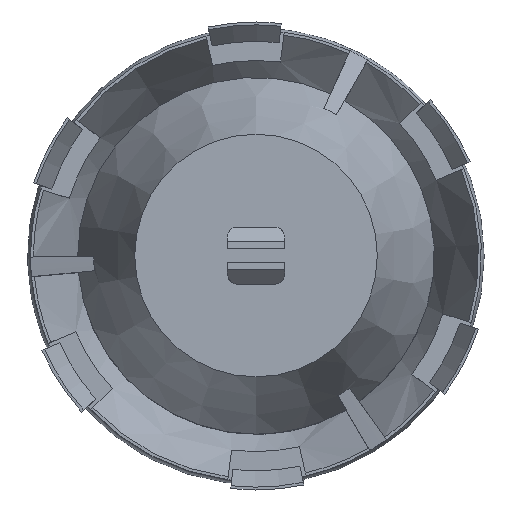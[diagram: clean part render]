
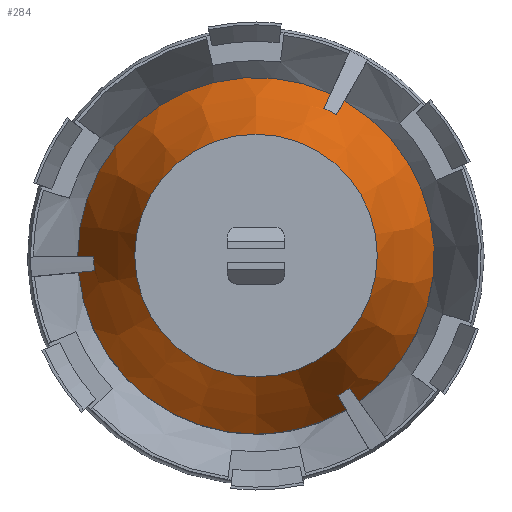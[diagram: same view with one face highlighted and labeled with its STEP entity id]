
A CAD part, top view. The second image highlights one B-rep face of the part: STEP entity #284.
In plain terms, the highlighted conical face has half-angle 21.801 degrees and reference radius 10.5 mm.
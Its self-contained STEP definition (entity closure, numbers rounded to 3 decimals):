
#75=CARTESIAN_POINT('',(-12.446,-1.158,15.0));
#76=VERTEX_POINT('',#75);
#92=CARTESIAN_POINT('',(6.309,-10.791,15.));
#93=VERTEX_POINT('',#92);
#100=CARTESIAN_POINT('',(0.,0.,15.));
#101=DIRECTION('',(0.0,0.0,-1.0));
#102=DIRECTION('',(0.0,-1.0,0.0));
#103=AXIS2_PLACEMENT_3D('',#100,#101,#102);
#104=CIRCLE('',#103,12.5);
#105=EDGE_CURVE('',#93,#76,#104,.T.);
#115=CARTESIAN_POINT('',(6.19,10.86,15.));
#116=VERTEX_POINT('',#115);
#125=CARTESIAN_POINT('',(7.226,-10.2,15.0));
#126=VERTEX_POINT('',#125);
#127=CARTESIAN_POINT('',(0.,0.,15.));
#128=DIRECTION('',(0.0,0.0,-1.0));
#129=DIRECTION('',(0.0,-1.0,0.0));
#130=AXIS2_PLACEMENT_3D('',#127,#128,#129);
#131=CIRCLE('',#130,12.5);
#132=EDGE_CURVE('',#116,#126,#131,.T.);
#159=CARTESIAN_POINT('',(5.22,11.358,15.0));
#160=VERTEX_POINT('',#159);
#176=CARTESIAN_POINT('',(-12.5,-0.069,15.));
#177=VERTEX_POINT('',#176);
#184=CARTESIAN_POINT('',(0.,0.,15.));
#185=DIRECTION('',(0.0,0.0,-1.0));
#186=DIRECTION('',(0.0,-1.0,0.0));
#187=AXIS2_PLACEMENT_3D('',#184,#185,#186);
#188=CIRCLE('',#187,12.5);
#189=EDGE_CURVE('',#177,#160,#188,.T.);
#194=CARTESIAN_POINT('',(0.,0.,20.0));
#195=DIRECTION('',(0.,0.,-1.0));
#196=DIRECTION('',(0.0,-1.0,0.0));
#197=AXIS2_PLACEMENT_3D('',#194,#195,#196);
#198=CONICAL_SURFACE('',#197,10.5,21.801);
#199=CARTESIAN_POINT('',(4.75,10.335,17.815));
#200=VERTEX_POINT('',#199);
#201=CARTESIAN_POINT('',(5.22,11.358,15.0));
#202=DIRECTION('',(-0.155,-0.337,0.928));
#203=VECTOR('',#202,3.031);
#204=LINE('',#201,#203);
#205=EDGE_CURVE('',#160,#200,#204,.T.);
#206=ORIENTED_EDGE('',*,*,#205,.F.);
#207=ORIENTED_EDGE('',*,*,#189,.F.);
#208=CARTESIAN_POINT('',(-11.374,-0.063,17.815));
#209=VERTEX_POINT('',#208);
#210=CARTESIAN_POINT('',(-11.374,-0.063,17.815));
#211=DIRECTION('',(-0.371,-0.002,-0.928));
#212=VECTOR('',#211,3.031);
#213=LINE('',#210,#212);
#214=EDGE_CURVE('',#209,#177,#213,.T.);
#215=ORIENTED_EDGE('',*,*,#214,.F.);
#216=CARTESIAN_POINT('',(-11.325,-1.054,17.815));
#217=VERTEX_POINT('',#216);
#218=CARTESIAN_POINT('',(0.,0.,17.815));
#219=DIRECTION('',(0.0,0.0,-1.0));
#220=DIRECTION('',(0.0,-1.0,0.0));
#221=AXIS2_PLACEMENT_3D('',#218,#219,#220);
#222=CIRCLE('',#221,11.374);
#223=EDGE_CURVE('',#217,#209,#222,.T.);
#224=ORIENTED_EDGE('',*,*,#223,.F.);
#225=CARTESIAN_POINT('',(-12.446,-1.158,15.0));
#226=DIRECTION('',(0.37,0.034,0.928));
#227=VECTOR('',#226,3.031);
#228=LINE('',#225,#227);
#229=EDGE_CURVE('',#76,#217,#228,.T.);
#230=ORIENTED_EDGE('',*,*,#229,.F.);
#231=ORIENTED_EDGE('',*,*,#105,.F.);
#232=CARTESIAN_POINT('',(5.741,-9.819,17.815));
#233=VERTEX_POINT('',#232);
#234=CARTESIAN_POINT('',(5.741,-9.819,17.815));
#235=DIRECTION('',(0.187,-0.321,-0.928));
#236=VECTOR('',#235,3.031);
#237=LINE('',#234,#236);
#238=EDGE_CURVE('',#233,#93,#237,.T.);
#239=ORIENTED_EDGE('',*,*,#238,.F.);
#240=CARTESIAN_POINT('',(6.575,-9.281,17.815));
#241=VERTEX_POINT('',#240);
#242=CARTESIAN_POINT('',(0.,0.,17.815));
#243=DIRECTION('',(0.0,0.0,-1.0));
#244=DIRECTION('',(0.0,-1.0,0.0));
#245=AXIS2_PLACEMENT_3D('',#242,#243,#244);
#246=CIRCLE('',#245,11.374);
#247=EDGE_CURVE('',#241,#233,#246,.T.);
#248=ORIENTED_EDGE('',*,*,#247,.F.);
#249=CARTESIAN_POINT('',(7.226,-10.2,15.0));
#250=DIRECTION('',(-0.215,0.303,0.928));
#251=VECTOR('',#250,3.031);
#252=LINE('',#249,#251);
#253=EDGE_CURVE('',#126,#241,#252,.T.);
#254=ORIENTED_EDGE('',*,*,#253,.F.);
#255=ORIENTED_EDGE('',*,*,#132,.F.);
#256=CARTESIAN_POINT('',(5.633,9.881,17.815));
#257=VERTEX_POINT('',#256);
#258=CARTESIAN_POINT('',(5.633,9.881,17.815));
#259=DIRECTION('',(0.184,0.323,-0.928));
#260=VECTOR('',#259,3.031);
#261=LINE('',#258,#260);
#262=EDGE_CURVE('',#257,#116,#261,.T.);
#263=ORIENTED_EDGE('',*,*,#262,.F.);
#264=CARTESIAN_POINT('',(0.,0.,17.815));
#265=DIRECTION('',(0.0,0.0,-1.0));
#266=DIRECTION('',(0.0,-1.0,0.0));
#267=AXIS2_PLACEMENT_3D('',#264,#265,#266);
#268=CIRCLE('',#267,11.374);
#269=EDGE_CURVE('',#200,#257,#268,.T.);
#270=ORIENTED_EDGE('',*,*,#269,.F.);
#271=EDGE_LOOP('',(#206,#207,#215,#224,#230,#231,#239,#248,#254,#255,#263,#270));
#272=FACE_OUTER_BOUND('',#271,.T.);
#273=CARTESIAN_POINT('',(0.,-8.5,25.0));
#274=VERTEX_POINT('',#273);
#275=CARTESIAN_POINT('',(0.,0.,25.0));
#276=DIRECTION('',(0.0,0.0,-1.0));
#277=DIRECTION('',(0.0,-1.0,0.0));
#278=AXIS2_PLACEMENT_3D('',#275,#276,#277);
#279=CIRCLE('',#278,8.5);
#280=EDGE_CURVE('',#274,#274,#279,.T.);
#281=ORIENTED_EDGE('',*,*,#280,.T.);
#282=EDGE_LOOP('',(#281));
#283=FACE_BOUND('',#282,.T.);
#284=ADVANCED_FACE('',(#272,#283),#198,.T.);
